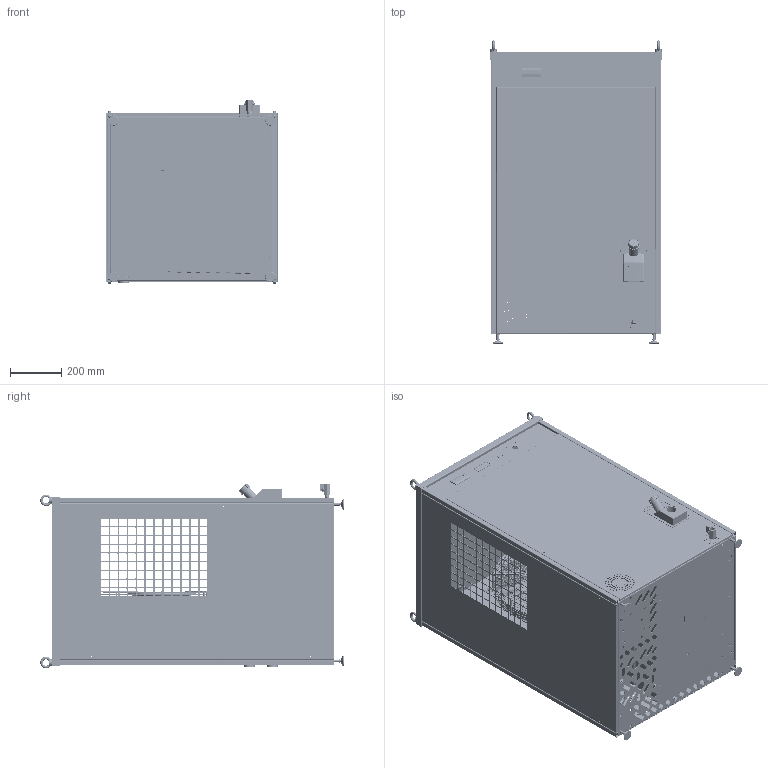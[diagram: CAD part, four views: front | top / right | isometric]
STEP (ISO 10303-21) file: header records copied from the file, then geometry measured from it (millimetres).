
FILE_DESCRIPTION (( 'STEP AP203' ), '1' );
FILE_NAME ('ECP3L-D_REV_00.STEP', '2026-07-23T09:55:28', ( '' ), ( '' ), 'SwSTEP 2.0', 'SolidWorks 2023', '' );
FILE_SCHEMA (( 'CONFIG_CONTROL_DESIGN' ));
Length unit declared in the file: millimetre
Products named in the file (36): COPIA_Rivelox M5 Reduced Head Hexagonal Shank._; COPIA_VR-3C-00003_000; COPIA_ZP-TA-00006; COPIA_TE-EL-00007 - EW_971_230V; COPIA_VR-3C-00004_006; COPIA_CR-3C-00019_001; COPIA_SE-RP-00044_002; ECP3L-D_REV_00; COPIA_GO-LF-00001; COPIA_VA-A5-00001; COPIA_CR-3C-00048_001; COPIA_VR-3C-00005_001; COPIA_Rivelox M5 Reduced Head Hexagonal Shank___; COPIA_ZF-BU-00027_000; COPIA_VR-3C-00008_004; COPIA_FILETTO_RUBINETTO_VA-A5-00001; COPIA_50-3C-00016; COPIA_VR-3C-00002_000; COPIA_VR-3C-00009_002; COPIA_ST-AT-00029_002; COPIA_CR-1C-00033_000; COPIA_VR-3C-00033_001; COPIA_VE-W3-00004; COPIA_CO-CF-00077_003; COPIA_43-MI-E0006; COPIA_AN-PI-00027_000; COPIA_CR-3C-00047_003; COPIA_THREADED INSERT CYLINDRICAL HEAD M10; COPIA_VR-3C-00034_003; COPIA_84IM6XXXXXXTREF00_1; COPIA_RIVELOX M8; COPIA_84fm5x15xxxpaff00_1; COPIA_VR-3C-00007_003
Assembly tree (76 placements, depth 5):
  ECP3L-D_REV_00
    COPIA_43-MI-E0006
      COPIA_50-3C-00016
        COPIA_VR-3C-00009_002
        COPIA_CR-3C-00019_001
        COPIA_VR-3C-00005_001
        COPIA_VR-3C-00002_000
        COPIA_VR-3C-00003_000
        COPIA_VR-3C-00004_006
          COPIA_VR-3C-00004_006
          COPIA_RIVELOX M8  x2
          COPIA_Rivelox M5 Reduced Head Hexagonal Shank___  x6
        COPIA_VR-3C-00007_003
        COPIA_VR-3C-00008_004
        COPIA_CR-3C-00048_001
          COPIA_CR-3C-00048_001
          COPIA_Rivelox M5 Reduced Head Hexagonal Shank._  x7
          COPIA_THREADED INSERT CYLINDRICAL HEAD M10  x4
        COPIA_CR-3C-00047_003
          COPIA_CR-3C-00047_003
          COPIA_84fm5x15xxxpaff00_1
          COPIA_84IM6XXXXXXTREF00_1  x9
        COPIA_VR-3C-00034_003
          COPIA_VR-3C-00033_001
          COPIA_Rivelox M5 Reduced Head Hexagonal Shank___  x8
        COPIA_AN-PI-00027_000  x4
        COPIA_CR-1C-00033_000
        COPIA_ZF-BU-00027_000  x4
      COPIA_CO-CF-00077_003
      COPIA_VE-W3-00004
      COPIA_GO-LF-00001  x4
    COPIA_SE-RP-00044_002
    COPIA_TE-EL-00007 - EW_971_230V
    COPIA_FILETTO_RUBINETTO_VA-A5-00001
    COPIA_VA-A5-00001
    COPIA_ST-AT-00029_002  x2
    COPIA_ZP-TA-00006
Bounding box: 671 x 1182.7 x 720 mm (x, y, z)
Volume: 23014328.3 mm3; surface area: 17065989.7 mm2
Topology: 181 solids, 187 shells, 17855 faces, 46612 edges, 28716 vertices
Faces by surface type: cylinder 6317, plane 5635, bspline 3232, torus 1711, cone 737, sphere 223
Entity records: 646772 total; most frequent: CARTESIAN_POINT 258529, ORIENTED_EDGE 84625, DIRECTION 72995, EDGE_CURVE 42314, AXIS2_PLACEMENT_3D 27709, VERTEX_POINT 26515, EDGE_LOOP 19224, LINE 17577
